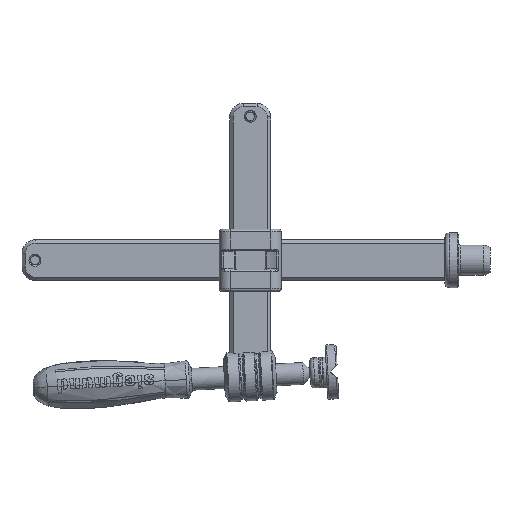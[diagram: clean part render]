
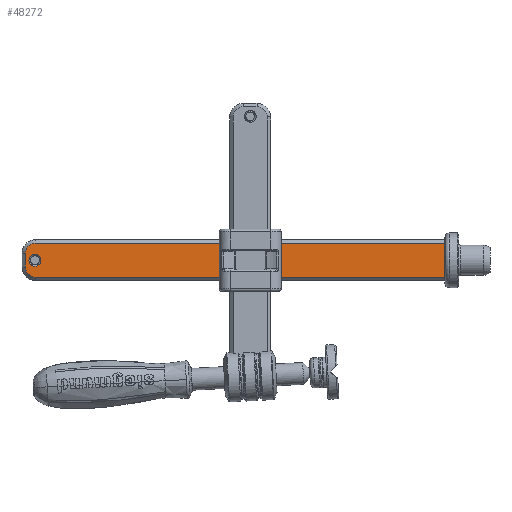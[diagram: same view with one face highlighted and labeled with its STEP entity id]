
A CAD part, left-side view. The second image highlights one B-rep face of the part: STEP entity #48272.
In plain terms, the highlighted planar face has unit normal (-1, 0, 0).
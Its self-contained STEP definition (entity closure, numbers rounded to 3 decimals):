
#397 = ORIENTED_EDGE ( 'NONE', *, *, #37138, .T. ) ;
#728 = DIRECTION ( 'NONE',  ( 0., 0., -1. ) ) ;
#769 = ORIENTED_EDGE ( 'NONE', *, *, #5414, .T. ) ;
#1172 = LINE ( 'NONE', #20716, #37954 ) ;
#1322 = VECTOR ( 'NONE', #51965, 1000. ) ;
#2135 = CARTESIAN_POINT ( 'NONE',  ( -7., 317.5, 5. ) ) ;
#3632 = LINE ( 'NONE', #52614, #1322 ) ;
#5085 = DIRECTION ( 'NONE',  ( 0., 0., -1. ) ) ;
#5414 = EDGE_CURVE ( 'NONE', #23498, #48734, #54202, .T. ) ;
#6478 = VECTOR ( 'NONE', #11660, 1000. ) ;
#6996 = AXIS2_PLACEMENT_3D ( 'NONE', #19855, #39684, #5085 ) ;
#10455 = DIRECTION ( 'NONE',  ( -1., 0., 0. ) ) ;
#10518 = CIRCLE ( 'NONE', #41187, 4.4 ) ;
#10603 = AXIS2_PLACEMENT_3D ( 'NONE', #57356, #14139, #33071 ) ;
#11068 = VERTEX_POINT ( 'NONE', #21041 ) ;
#11104 = EDGE_CURVE ( 'NONE', #48734, #44947, #1172, .T. ) ;
#11179 = FACE_BOUND ( 'NONE', #58043, .T. ) ;
#11614 = CIRCLE ( 'NONE', #10603, 7.5 ) ;
#11660 = DIRECTION ( 'NONE',  ( 0., 1., 0. ) ) ;
#14139 = DIRECTION ( 'NONE',  ( -1., 0., 0. ) ) ;
#14831 = DIRECTION ( 'NONE',  ( 1., 0., 0. ) ) ;
#16381 = EDGE_CURVE ( 'NONE', #24582, #16691, #10518, .T. ) ;
#16526 = DIRECTION ( 'NONE',  ( 0., 0., -1. ) ) ;
#16691 = VERTEX_POINT ( 'NONE', #43426 ) ;
#17392 = ORIENTED_EDGE ( 'NONE', *, *, #47705, .T. ) ;
#19503 = DIRECTION ( 'NONE',  ( 0., -1., 0. ) ) ;
#19855 = CARTESIAN_POINT ( 'NONE',  ( -7., 320., 15. ) ) ;
#20716 = CARTESIAN_POINT ( 'NONE',  ( -7., 317.5, -5. ) ) ;
#21041 = CARTESIAN_POINT ( 'NONE',  ( -7., 10., 12.5 ) ) ;
#21051 = DIRECTION ( 'NONE',  ( 0., 0., -1. ) ) ;
#21117 = PLANE ( 'NONE',  #6996 ) ;
#21337 = CARTESIAN_POINT ( 'NONE',  ( -7., 320., -12.5 ) ) ;
#21565 = AXIS2_PLACEMENT_3D ( 'NONE', #48746, #14831, #728 ) ;
#23498 = VERTEX_POINT ( 'NONE', #40105 ) ;
#24582 = VERTEX_POINT ( 'NONE', #48184 ) ;
#25242 = VERTEX_POINT ( 'NONE', #44720 ) ;
#29737 = LINE ( 'NONE', #21337, #46808 ) ;
#30295 = DIRECTION ( 'NONE',  ( 0., 0., -1. ) ) ;
#32110 = CARTESIAN_POINT ( 'NONE',  ( -7., 317.5, -5. ) ) ;
#33071 = DIRECTION ( 'NONE',  ( 0., 0., -1. ) ) ;
#37138 = EDGE_CURVE ( 'NONE', #44947, #25242, #11614, .T. ) ;
#37594 = VERTEX_POINT ( 'NONE', #46909 ) ;
#37719 = EDGE_CURVE ( 'NONE', #11068, #23498, #40481, .T. ) ;
#37954 = VECTOR ( 'NONE', #16526, 1000. ) ;
#39279 = EDGE_CURVE ( 'NONE', #37594, #11068, #3632, .T. ) ;
#39313 = CARTESIAN_POINT ( 'NONE',  ( -7., 310.5, 0. ) ) ;
#39684 = DIRECTION ( 'NONE',  ( 1., 0., 0. ) ) ;
#40105 = CARTESIAN_POINT ( 'NONE',  ( -7., 310., 12.5 ) ) ;
#40481 = LINE ( 'NONE', #55154, #6478 ) ;
#40800 = ORIENTED_EDGE ( 'NONE', *, *, #37719, .T. ) ;
#41187 = AXIS2_PLACEMENT_3D ( 'NONE', #39313, #58802, #21051 ) ;
#43426 = CARTESIAN_POINT ( 'NONE',  ( -7., 310.5, 4.4 ) ) ;
#44720 = CARTESIAN_POINT ( 'NONE',  ( -7., 310., -12.5 ) ) ;
#44882 = ORIENTED_EDGE ( 'NONE', *, *, #16381, .T. ) ;
#44947 = VERTEX_POINT ( 'NONE', #32110 ) ;
#46808 = VECTOR ( 'NONE', #19503, 1000. ) ;
#46909 = CARTESIAN_POINT ( 'NONE',  ( -7., 10., -12.5 ) ) ;
#47705 = EDGE_CURVE ( 'NONE', #25242, #37594, #29737, .T. ) ;
#48184 = CARTESIAN_POINT ( 'NONE',  ( -7., 310.5, -4.4 ) ) ;
#48272 = ADVANCED_FACE ( 'NONE', ( #11179, #58871 ), #21117, .F. ) ;
#48734 = VERTEX_POINT ( 'NONE', #2135 ) ;
#48746 = CARTESIAN_POINT ( 'NONE',  ( -7., 310.5, 0. ) ) ;
#49124 = CIRCLE ( 'NONE', #21565, 4.4 ) ;
#49161 = CARTESIAN_POINT ( 'NONE',  ( -7., 310., 5. ) ) ;
#49460 = ORIENTED_EDGE ( 'NONE', *, *, #39279, .T. ) ;
#50555 = ORIENTED_EDGE ( 'NONE', *, *, #11104, .T. ) ;
#51965 = DIRECTION ( 'NONE',  ( 0., 0., 1. ) ) ;
#52614 = CARTESIAN_POINT ( 'NONE',  ( -7., 10., 15. ) ) ;
#54202 = CIRCLE ( 'NONE', #56255, 7.5 ) ;
#55154 = CARTESIAN_POINT ( 'NONE',  ( -7., 320., 12.5 ) ) ;
#56255 = AXIS2_PLACEMENT_3D ( 'NONE', #49161, #10455, #30295 ) ;
#57309 = EDGE_LOOP ( 'NONE', ( #397, #17392, #49460, #40800, #769, #50555 ) ) ;
#57356 = CARTESIAN_POINT ( 'NONE',  ( -7., 310., -5. ) ) ;
#58043 = EDGE_LOOP ( 'NONE', ( #60848, #44882 ) ) ;
#58802 = DIRECTION ( 'NONE',  ( 1., 0., 0. ) ) ;
#58871 = FACE_OUTER_BOUND ( 'NONE', #57309, .T. ) ;
#59605 = EDGE_CURVE ( 'NONE', #16691, #24582, #49124, .T. ) ;
#60848 = ORIENTED_EDGE ( 'NONE', *, *, #59605, .T. ) ;
